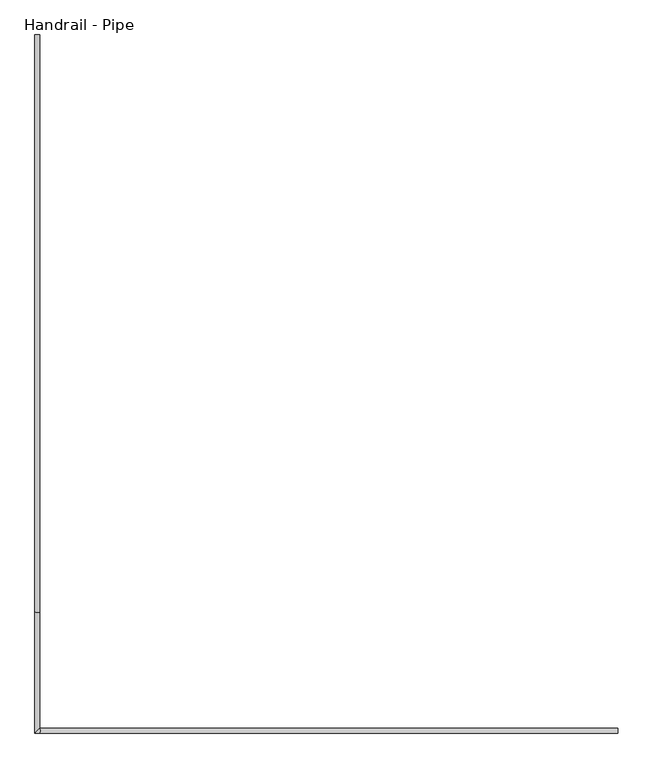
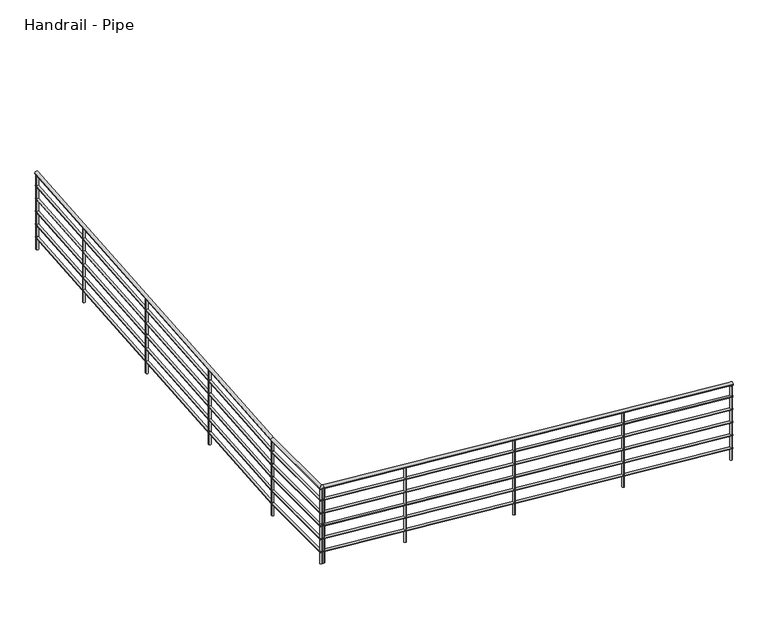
"""IFC4 building model written with IfcOpenShell, lengths in millimetres: railing geometry, Handrail - Pipe."""

from ifc_helpers import new_model, si_unit, point, frame, frame_2d, origin, place, context, project, spatial, circle_curve, ellipse_curve, trimmed, segment, composite_curve, outline, extrude, source, transform, mapped, element, save
from ifc_brep_helpers import plane_surface, cylinder_surface, advanced_brep


def handrail_pipe_b21a8dd5(model_context):
    return source(origin(), model_context, "Body", "SolidModel", [
        advanced_brep(
        [(17900.9421922, -12379.3010164, 133.2839686), (17900.9421922, -12417.4010164, 133.2839686), (13328.1498155, -12379.3010164, 514.35), (13328.1498155, -12417.4010164, 514.35), (13322.5921922, -12379.3010164, 514.35), (13284.4921922, -12417.4010164, 514.35), (13322.5921922, -11462.6964124, 514.35), (13284.4921922, -11462.6964124, 514.35), (13322.5921922, -6891.4887891, 895.2839686), (13284.4921922, -6891.4887891, 895.2839686)],
        [
            (0, 1, ellipse_curve(frame((17900.9421922, -12398.3510164, 133.2839686), z_axis=(1.0, 0.0, 0.0), x_axis=(0.0, 0.0, -1.0)), 19.1160314, 19.05)),
            (1, 0, ellipse_curve(frame((17900.9421922, -12398.3510164, 133.2839686), z_axis=(1.0, 0.0, 0.0), x_axis=(0.0, 0.0, -1.0)), 19.1160314, 19.05)),
            (0, 2),
            (2, 3, ellipse_curve(frame((13328.1498155, -12398.3510164, 514.35), z_axis=(0.9991360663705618, 0.0, -0.041558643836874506), x_axis=(-0.04155864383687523, 0.0, -0.9991360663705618)), 19.0664722, 19.05)),
            (3, 1),
            (3, 2, ellipse_curve(frame((13328.1498155, -12398.3510164, 514.35), z_axis=(0.9991360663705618, 0.0, -0.041558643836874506), x_axis=(-0.04155864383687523, 0.0, -0.9991360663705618)), 19.0664722, 19.05)),
            (2, 4),
            (4, 5, ellipse_curve(frame((13303.5421922, -12398.3510164, 514.35), z_axis=(0.7071067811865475, -0.7071067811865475, 0.0), x_axis=(0.7071067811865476, 0.7071067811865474, 0.0)), 26.9407684, 19.05)),
            (5, 3),
            (5, 4, ellipse_curve(frame((13303.5421922, -12398.3510164, 514.35), z_axis=(0.7071067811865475, -0.7071067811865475, 0.0), x_axis=(0.7071067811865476, 0.7071067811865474, 0.0)), 26.9407684, 19.05)),
            (4, 6),
            (6, 7, ellipse_curve(frame((13303.5421922, -11462.6964124, 514.35), z_axis=(0.0, -0.9991360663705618, -0.041558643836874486), x_axis=(0.0, -0.04155864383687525, 0.9991360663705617)), 19.0664722, 19.05)),
            (7, 5),
            (7, 6, ellipse_curve(frame((13303.5421922, -11462.6964124, 514.35), z_axis=(0.0, -0.9991360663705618, -0.041558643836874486), x_axis=(0.0, -0.04155864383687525, 0.9991360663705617)), 19.0664722, 19.05)),
            (8, 9, ellipse_curve(frame((13303.5421922, -6891.4887891, 895.2839686), z_axis=(0.0, 1.0, 0.0), x_axis=(0.0, 0.0, -1.0)), 19.1160314, 19.05)),
            (9, 8, ellipse_curve(frame((13303.5421922, -6891.4887891, 895.2839686), z_axis=(0.0, 1.0, 0.0), x_axis=(0.0, 0.0, -1.0)), 19.1160314, 19.05)),
            (6, 8),
            (9, 7),
        ],
        [
            plane_surface(frame((17900.9421922, -12398.3510164, 152.4), z_axis=(1.0, 0.0, 0.0), x_axis=(0.0, -1.0, 0.0))),
            cylinder_surface(frame((17899.3601758, -12398.3510164, 133.4158033), z_axis=(0.9965457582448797, 0.0, -0.08304547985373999), x_axis=(0.0, -1.0, 0.0)), 19.05),
            cylinder_surface(frame((13328.9421922, -12398.3510164, 514.35), z_axis=(1.0, 0.0, 0.0), x_axis=(0.0, -1.0, 0.0)), 19.05),
            cylinder_surface(frame((13303.5421922, -12398.3510164, 514.35), z_axis=(0.0, -1.0, 0.0), x_axis=(-1.0, 0.0, 0.0)), 19.05),
            plane_surface(frame((13303.5421922, -6891.4887891, 914.4), z_axis=(0.0, 1.0, 0.0), x_axis=(0.0, 0.0, 1.0))),
            cylinder_surface(frame((13303.5421922, -11461.9067727, 514.4158033), z_axis=(0.0, -0.9965457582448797, -0.08304547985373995), x_axis=(-1.0, 0.0, 0.0)), 19.05),
        ],
        [
            (0, [[1, 2]]),
            (1, [[-1, 3, 4, 5]]),
            (1, [[-2, -5, 6, -3]]),
            (2, [[-4, 7, 8, 9]]),
            (2, [[-6, -9, 10, -7]]),
            (3, [[-8, 11, 12, 13]]),
            (3, [[-10, -13, 14, -11]]),
            (4, [[15, 16]]),
            (5, [[-12, 17, -16, 18]]),
            (5, [[-14, -18, -15, -17]]),
        ],
    ),
        advanced_brep(
        [(17900.9421922, -12385.6510164, -12.7440209), (17900.9421922, -12411.0510164, -12.7440209), (13328.413941, -12385.6510164, 368.3), (13328.413941, -12411.0510164, 368.3), (13316.2421922, -12385.6510164, 368.3), (13290.8421922, -12411.0510164, 368.3), (13316.2421922, -11462.9605379, 368.3), (13290.8421922, -11462.9605379, 368.3), (13316.2421922, -6891.4887891, 749.2559791), (13290.8421922, -6891.4887891, 749.2559791)],
        [
            (0, 1, ellipse_curve(frame((17900.9421922, -12398.3510164, -12.7440209), z_axis=(1.0, 0.0, 0.0), x_axis=(0.0, 0.0, -1.0)), 12.7440209, 12.7)),
            (1, 0, ellipse_curve(frame((17900.9421922, -12398.3510164, -12.7440209), z_axis=(1.0, 0.0, 0.0), x_axis=(0.0, 0.0, -1.0)), 12.7440209, 12.7)),
            (0, 2),
            (2, 3, ellipse_curve(frame((13328.413941, -12398.3510164, 368.3), z_axis=(0.9991360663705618, 0.0, -0.041558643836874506), x_axis=(-0.04155864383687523, 0.0, -0.9991360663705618)), 12.7109814, 12.7)),
            (3, 1),
            (3, 2, ellipse_curve(frame((13328.413941, -12398.3510164, 368.3), z_axis=(0.9991360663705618, 0.0, -0.041558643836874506), x_axis=(-0.04155864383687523, 0.0, -0.9991360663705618)), 12.7109814, 12.7)),
            (2, 4),
            (4, 5, ellipse_curve(frame((13303.5421922, -12398.3510164, 368.3), z_axis=(0.7071067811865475, -0.7071067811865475, 0.0), x_axis=(0.7071067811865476, 0.7071067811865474, 0.0)), 17.9605122, 12.7)),
            (5, 3),
            (5, 4, ellipse_curve(frame((13303.5421922, -12398.3510164, 368.3), z_axis=(0.7071067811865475, -0.7071067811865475, 0.0), x_axis=(0.7071067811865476, 0.7071067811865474, 0.0)), 17.9605122, 12.7)),
            (4, 6),
            (6, 7, ellipse_curve(frame((13303.5421922, -11462.9605379, 368.3), z_axis=(0.0, -0.9991360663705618, -0.041558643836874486), x_axis=(0.0, -0.04155864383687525, 0.9991360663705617)), 12.7109814, 12.7)),
            (7, 5),
            (7, 6, ellipse_curve(frame((13303.5421922, -11462.9605379, 368.3), z_axis=(0.0, -0.9991360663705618, -0.041558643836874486), x_axis=(0.0, -0.04155864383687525, 0.9991360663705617)), 12.7109814, 12.7)),
            (8, 9, ellipse_curve(frame((13303.5421922, -6891.4887891, 749.2559791), z_axis=(0.0, 1.0, 0.0), x_axis=(0.0, 0.0, -1.0)), 12.7440209, 12.7)),
            (9, 8, ellipse_curve(frame((13303.5421922, -6891.4887891, 749.2559791), z_axis=(0.0, 1.0, 0.0), x_axis=(0.0, 0.0, -1.0)), 12.7440209, 12.7)),
            (6, 8),
            (9, 7),
        ],
        [
            plane_surface(frame((17900.9421922, -12398.3510164, 0.0), z_axis=(1.0, 0.0, 0.0), x_axis=(0.0, -1.0, 0.0))),
            cylinder_surface(frame((17899.8875146, -12398.3510164, -12.6561311), z_axis=(0.9965457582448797, 0.0, -0.08304547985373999), x_axis=(0.0, -1.0, 0.0)), 12.7),
            cylinder_surface(frame((13328.9421922, -12398.3510164, 368.3), z_axis=(1.0, 0.0, 0.0), x_axis=(0.0, -1.0, 0.0)), 12.7),
            cylinder_surface(frame((13303.5421922, -12398.3510164, 368.3), z_axis=(0.0, -1.0, 0.0), x_axis=(-1.0, 0.0, 0.0)), 12.7),
            plane_surface(frame((13303.5421922, -6891.4887891, 762.0), z_axis=(0.0, 1.0, 0.0), x_axis=(0.0, 0.0, 1.0))),
            cylinder_surface(frame((13303.5421922, -11462.4341115, 368.3438689), z_axis=(0.0, -0.9965457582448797, -0.08304547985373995), x_axis=(-1.0, 0.0, 0.0)), 12.7),
        ],
        [
            (0, [[1, 2]]),
            (1, [[-1, 3, 4, 5]]),
            (1, [[-2, -5, 6, -3]]),
            (2, [[-4, 7, 8, 9]]),
            (2, [[-6, -9, 10, -7]]),
            (3, [[-8, 11, 12, 13]]),
            (3, [[-10, -13, 14, -11]]),
            (4, [[15, 16]]),
            (5, [[-12, 17, -16, 18]]),
            (5, [[-14, -18, -15, -17]]),
        ],
    ),
        advanced_brep(
        [(17900.9421922, -12385.6510164, -165.1440209), (17900.9421922, -12411.0510164, -165.1440209), (13328.413941, -12385.6510164, 215.9), (13328.413941, -12411.0510164, 215.9), (13316.2421922, -12385.6510164, 215.9), (13290.8421922, -12411.0510164, 215.9), (13316.2421922, -11462.9605379, 215.9), (13290.8421922, -11462.9605379, 215.9), (13316.2421922, -6891.4887891, 596.8559791), (13290.8421922, -6891.4887891, 596.8559791)],
        [
            (0, 1, ellipse_curve(frame((17900.9421922, -12398.3510164, -165.1440209), z_axis=(1.0, 0.0, 0.0), x_axis=(0.0, 0.0, -1.0)), 12.7440209, 12.7)),
            (1, 0, ellipse_curve(frame((17900.9421922, -12398.3510164, -165.1440209), z_axis=(1.0, 0.0, 0.0), x_axis=(0.0, 0.0, -1.0)), 12.7440209, 12.7)),
            (0, 2),
            (2, 3, ellipse_curve(frame((13328.413941, -12398.3510164, 215.9), z_axis=(0.9991360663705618, 0.0, -0.041558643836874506), x_axis=(-0.04155864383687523, 0.0, -0.9991360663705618)), 12.7109814, 12.7)),
            (3, 1),
            (3, 2, ellipse_curve(frame((13328.413941, -12398.3510164, 215.9), z_axis=(0.9991360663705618, 0.0, -0.041558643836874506), x_axis=(-0.04155864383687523, 0.0, -0.9991360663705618)), 12.7109814, 12.7)),
            (2, 4),
            (4, 5, ellipse_curve(frame((13303.5421922, -12398.3510164, 215.9), z_axis=(0.7071067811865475, -0.7071067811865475, 0.0), x_axis=(0.7071067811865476, 0.7071067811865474, 0.0)), 17.9605122, 12.7)),
            (5, 3),
            (5, 4, ellipse_curve(frame((13303.5421922, -12398.3510164, 215.9), z_axis=(0.7071067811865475, -0.7071067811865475, 0.0), x_axis=(0.7071067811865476, 0.7071067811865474, 0.0)), 17.9605122, 12.7)),
            (4, 6),
            (6, 7, ellipse_curve(frame((13303.5421922, -11462.9605379, 215.9), z_axis=(0.0, -0.9991360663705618, -0.041558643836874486), x_axis=(0.0, -0.04155864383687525, 0.9991360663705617)), 12.7109814, 12.7)),
            (7, 5),
            (7, 6, ellipse_curve(frame((13303.5421922, -11462.9605379, 215.9), z_axis=(0.0, -0.9991360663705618, -0.041558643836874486), x_axis=(0.0, -0.04155864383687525, 0.9991360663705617)), 12.7109814, 12.7)),
            (8, 9, ellipse_curve(frame((13303.5421922, -6891.4887891, 596.8559791), z_axis=(0.0, 1.0, 0.0), x_axis=(0.0, 0.0, -1.0)), 12.7440209, 12.7)),
            (9, 8, ellipse_curve(frame((13303.5421922, -6891.4887891, 596.8559791), z_axis=(0.0, 1.0, 0.0), x_axis=(0.0, 0.0, -1.0)), 12.7440209, 12.7)),
            (6, 8),
            (9, 7),
        ],
        [
            plane_surface(frame((17900.9421922, -12398.3510164, -152.4), z_axis=(1.0, 0.0, 0.0), x_axis=(0.0, -1.0, 0.0))),
            cylinder_surface(frame((17899.8875146, -12398.3510164, -165.0561311), z_axis=(0.9965457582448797, 0.0, -0.08304547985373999), x_axis=(0.0, -1.0, 0.0)), 12.7),
            cylinder_surface(frame((13328.9421922, -12398.3510164, 215.9), z_axis=(1.0, 0.0, 0.0), x_axis=(0.0, -1.0, 0.0)), 12.7),
            cylinder_surface(frame((13303.5421922, -12398.3510164, 215.9), z_axis=(0.0, -1.0, 0.0), x_axis=(-1.0, 0.0, 0.0)), 12.7),
            plane_surface(frame((13303.5421922, -6891.4887891, 609.6), z_axis=(0.0, 1.0, 0.0), x_axis=(0.0, 0.0, 1.0))),
            cylinder_surface(frame((13303.5421922, -11462.4341115, 215.9438689), z_axis=(0.0, -0.9965457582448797, -0.08304547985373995), x_axis=(-1.0, 0.0, 0.0)), 12.7),
        ],
        [
            (0, [[1, 2]]),
            (1, [[-1, 3, 4, 5]]),
            (1, [[-2, -5, 6, -3]]),
            (2, [[-4, 7, 8, 9]]),
            (2, [[-6, -9, 10, -7]]),
            (3, [[-8, 11, 12, 13]]),
            (3, [[-10, -13, 14, -11]]),
            (4, [[15, 16]]),
            (5, [[-12, 17, -16, 18]]),
            (5, [[-14, -18, -15, -17]]),
        ],
    ),
        advanced_brep(
        [(17900.9421922, -12385.6510164, -317.5440209), (17900.9421922, -12411.0510164, -317.5440209), (13328.413941, -12385.6510164, 63.5), (13328.413941, -12411.0510164, 63.5), (13316.2421922, -12385.6510164, 63.5), (13290.8421922, -12411.0510164, 63.5), (13316.2421922, -11462.9605379, 63.5), (13290.8421922, -11462.9605379, 63.5), (13316.2421922, -6891.4887891, 444.4559791), (13290.8421922, -6891.4887891, 444.4559791)],
        [
            (0, 1, ellipse_curve(frame((17900.9421922, -12398.3510164, -317.5440209), z_axis=(1.0, 0.0, 0.0), x_axis=(0.0, 0.0, -1.0)), 12.7440209, 12.7)),
            (1, 0, ellipse_curve(frame((17900.9421922, -12398.3510164, -317.5440209), z_axis=(1.0, 0.0, 0.0), x_axis=(0.0, 0.0, -1.0)), 12.7440209, 12.7)),
            (0, 2),
            (2, 3, ellipse_curve(frame((13328.413941, -12398.3510164, 63.5), z_axis=(0.9991360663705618, 0.0, -0.041558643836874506), x_axis=(-0.04155864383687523, 0.0, -0.9991360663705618)), 12.7109814, 12.7)),
            (3, 1),
            (3, 2, ellipse_curve(frame((13328.413941, -12398.3510164, 63.5), z_axis=(0.9991360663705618, 0.0, -0.041558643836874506), x_axis=(-0.04155864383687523, 0.0, -0.9991360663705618)), 12.7109814, 12.7)),
            (2, 4),
            (4, 5, ellipse_curve(frame((13303.5421922, -12398.3510164, 63.5), z_axis=(0.7071067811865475, -0.7071067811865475, 0.0), x_axis=(0.7071067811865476, 0.7071067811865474, 0.0)), 17.9605122, 12.7)),
            (5, 3),
            (5, 4, ellipse_curve(frame((13303.5421922, -12398.3510164, 63.5), z_axis=(0.7071067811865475, -0.7071067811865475, 0.0), x_axis=(0.7071067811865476, 0.7071067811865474, 0.0)), 17.9605122, 12.7)),
            (4, 6),
            (6, 7, ellipse_curve(frame((13303.5421922, -11462.9605379, 63.5), z_axis=(0.0, -0.9991360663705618, -0.0415586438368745), x_axis=(0.0, -0.04155864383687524, 0.9991360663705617)), 12.7109814, 12.7)),
            (7, 5),
            (7, 6, ellipse_curve(frame((13303.5421922, -11462.9605379, 63.5), z_axis=(0.0, -0.9991360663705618, -0.0415586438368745), x_axis=(0.0, -0.04155864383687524, 0.9991360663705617)), 12.7109814, 12.7)),
            (8, 9, ellipse_curve(frame((13303.5421922, -6891.4887891, 444.4559791), z_axis=(0.0, 1.0, 0.0), x_axis=(0.0, 0.0, -0.9999999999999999)), 12.7440209, 12.7)),
            (9, 8, ellipse_curve(frame((13303.5421922, -6891.4887891, 444.4559791), z_axis=(0.0, 1.0, 0.0), x_axis=(0.0, 0.0, -0.9999999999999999)), 12.7440209, 12.7)),
            (6, 8),
            (9, 7),
        ],
        [
            plane_surface(frame((17900.9421922, -12398.3510164, -304.8), z_axis=(1.0, 0.0, 0.0), x_axis=(0.0, -1.0, 0.0))),
            cylinder_surface(frame((17899.8875146, -12398.3510164, -317.4561311), z_axis=(0.9965457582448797, 0.0, -0.08304547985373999), x_axis=(0.0, -1.0, 0.0)), 12.7),
            cylinder_surface(frame((13328.9421922, -12398.3510164, 63.5), z_axis=(1.0, 0.0, 0.0), x_axis=(0.0, -1.0, 0.0)), 12.7),
            cylinder_surface(frame((13303.5421922, -12398.3510164, 63.5), z_axis=(0.0, -1.0, 0.0), x_axis=(-1.0, 0.0, 0.0)), 12.7),
            plane_surface(frame((13303.5421922, -6891.4887891, 457.2), z_axis=(0.0, 1.0, 0.0), x_axis=(0.0, 0.0, 1.0))),
            cylinder_surface(frame((13303.5421922, -11462.4341115, 63.5438689), z_axis=(0.0, -0.9965457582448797, -0.08304547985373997), x_axis=(-1.0, 0.0, 0.0)), 12.7),
        ],
        [
            (0, [[1, 2]]),
            (1, [[-1, 3, 4, 5]]),
            (1, [[-2, -5, 6, -3]]),
            (2, [[-4, 7, 8, 9]]),
            (2, [[-6, -9, 10, -7]]),
            (3, [[-8, 11, 12, 13]]),
            (3, [[-10, -13, 14, -11]]),
            (4, [[15, 16]]),
            (5, [[-12, 17, -16, 18]]),
            (5, [[-14, -18, -15, -17]]),
        ],
    ),
        advanced_brep(
        [(17900.9421922, -12385.6510164, -469.9440209), (17900.9421922, -12411.0510164, -469.9440209), (13328.413941, -12385.6510164, -88.9), (13328.413941, -12411.0510164, -88.9), (13316.2421922, -12385.6510164, -88.9), (13290.8421922, -12411.0510164, -88.9), (13316.2421922, -11462.9605379, -88.9), (13290.8421922, -11462.9605379, -88.9), (13316.2421922, -6891.4887891, 292.0559791), (13290.8421922, -6891.4887891, 292.0559791)],
        [
            (0, 1, ellipse_curve(frame((17900.9421922, -12398.3510164, -469.9440209), z_axis=(1.0, 0.0, 0.0), x_axis=(0.0, 0.0, -1.0)), 12.7440209, 12.7)),
            (1, 0, ellipse_curve(frame((17900.9421922, -12398.3510164, -469.9440209), z_axis=(1.0, 0.0, 0.0), x_axis=(0.0, 0.0, -1.0)), 12.7440209, 12.7)),
            (0, 2),
            (2, 3, ellipse_curve(frame((13328.413941, -12398.3510164, -88.9), z_axis=(0.9991360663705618, 0.0, -0.041558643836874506), x_axis=(-0.04155864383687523, 0.0, -0.9991360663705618)), 12.7109814, 12.7)),
            (3, 1),
            (3, 2, ellipse_curve(frame((13328.413941, -12398.3510164, -88.9), z_axis=(0.9991360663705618, 0.0, -0.041558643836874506), x_axis=(-0.04155864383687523, 0.0, -0.9991360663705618)), 12.7109814, 12.7)),
            (2, 4),
            (4, 5, ellipse_curve(frame((13303.5421922, -12398.3510164, -88.9), z_axis=(0.7071067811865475, -0.7071067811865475, 0.0), x_axis=(0.7071067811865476, 0.7071067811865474, 0.0)), 17.9605122, 12.7)),
            (5, 3),
            (5, 4, ellipse_curve(frame((13303.5421922, -12398.3510164, -88.9), z_axis=(0.7071067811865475, -0.7071067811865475, 0.0), x_axis=(0.7071067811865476, 0.7071067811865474, 0.0)), 17.9605122, 12.7)),
            (4, 6),
            (6, 7, ellipse_curve(frame((13303.5421922, -11462.9605379, -88.9), z_axis=(0.0, -0.9991360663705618, -0.0415586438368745), x_axis=(0.0, -0.04155864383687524, 0.9991360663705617)), 12.7109814, 12.7)),
            (7, 5),
            (7, 6, ellipse_curve(frame((13303.5421922, -11462.9605379, -88.9), z_axis=(0.0, -0.9991360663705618, -0.0415586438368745), x_axis=(0.0, -0.04155864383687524, 0.9991360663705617)), 12.7109814, 12.7)),
            (8, 9, ellipse_curve(frame((13303.5421922, -6891.4887891, 292.0559791), z_axis=(0.0, 1.0, 0.0), x_axis=(0.0, 0.0, -0.9999999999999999)), 12.7440209, 12.7)),
            (9, 8, ellipse_curve(frame((13303.5421922, -6891.4887891, 292.0559791), z_axis=(0.0, 1.0, 0.0), x_axis=(0.0, 0.0, -0.9999999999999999)), 12.7440209, 12.7)),
            (6, 8),
            (9, 7),
        ],
        [
            plane_surface(frame((17900.9421922, -12398.3510164, -457.2), z_axis=(1.0, 0.0, 0.0), x_axis=(0.0, -1.0, 0.0))),
            cylinder_surface(frame((17899.8875146, -12398.3510164, -469.8561311), z_axis=(0.9965457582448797, 0.0, -0.08304547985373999), x_axis=(0.0, -1.0, 0.0)), 12.7),
            cylinder_surface(frame((13328.9421922, -12398.3510164, -88.9), z_axis=(1.0, 0.0, 0.0), x_axis=(0.0, -1.0, 0.0)), 12.7),
            cylinder_surface(frame((13303.5421922, -12398.3510164, -88.9), z_axis=(0.0, -1.0, 0.0), x_axis=(-1.0, 0.0, 0.0)), 12.7),
            plane_surface(frame((13303.5421922, -6891.4887891, 304.8), z_axis=(0.0, 1.0, 0.0), x_axis=(0.0, 0.0, 1.0))),
            cylinder_surface(frame((13303.5421922, -11462.4341115, -88.8561311), z_axis=(0.0, -0.9965457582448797, -0.08304547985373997), x_axis=(-1.0, 0.0, 0.0)), 12.7),
        ],
        [
            (0, [[1, 2]]),
            (1, [[-1, 3, 4, 5]]),
            (1, [[-2, -5, 6, -3]]),
            (2, [[-4, 7, 8, 9]]),
            (2, [[-6, -9, 10, -7]]),
            (3, [[-8, 11, 12, 13]]),
            (3, [[-10, -13, 14, -11]]),
            (4, [[15, 16]]),
            (5, [[-12, 17, -16, 18]]),
            (5, [[-14, -18, -15, -17]]),
        ],
    ),
        advanced_brep(
        [(17900.9421922, -12385.6510164, -622.3440209), (17900.9421922, -12411.0510164, -622.3440209), (13328.413941, -12385.6510164, -241.3), (13328.413941, -12411.0510164, -241.3), (13316.2421922, -12385.6510164, -241.3), (13290.8421922, -12411.0510164, -241.3), (13316.2421922, -11462.9605379, -241.3), (13290.8421922, -11462.9605379, -241.3), (13316.2421922, -6891.4887891, 139.6559791), (13290.8421922, -6891.4887891, 139.6559791)],
        [
            (0, 1, ellipse_curve(frame((17900.9421922, -12398.3510164, -622.3440209), z_axis=(1.0, 0.0, 0.0), x_axis=(0.0, 0.0, -1.0)), 12.7440209, 12.7)),
            (1, 0, ellipse_curve(frame((17900.9421922, -12398.3510164, -622.3440209), z_axis=(1.0, 0.0, 0.0), x_axis=(0.0, 0.0, -1.0)), 12.7440209, 12.7)),
            (0, 2),
            (2, 3, ellipse_curve(frame((13328.413941, -12398.3510164, -241.3), z_axis=(0.9991360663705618, 0.0, -0.041558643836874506), x_axis=(-0.04155864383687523, 0.0, -0.9991360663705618)), 12.7109814, 12.7)),
            (3, 1),
            (3, 2, ellipse_curve(frame((13328.413941, -12398.3510164, -241.3), z_axis=(0.9991360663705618, 0.0, -0.041558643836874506), x_axis=(-0.04155864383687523, 0.0, -0.9991360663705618)), 12.7109814, 12.7)),
            (2, 4),
            (4, 5, ellipse_curve(frame((13303.5421922, -12398.3510164, -241.3), z_axis=(0.7071067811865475, -0.7071067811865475, 0.0), x_axis=(0.7071067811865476, 0.7071067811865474, 0.0)), 17.9605122, 12.7)),
            (5, 3),
            (5, 4, ellipse_curve(frame((13303.5421922, -12398.3510164, -241.3), z_axis=(0.7071067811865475, -0.7071067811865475, 0.0), x_axis=(0.7071067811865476, 0.7071067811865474, 0.0)), 17.9605122, 12.7)),
            (4, 6),
            (6, 7, ellipse_curve(frame((13303.5421922, -11462.9605379, -241.3), z_axis=(0.0, -0.9991360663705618, -0.0415586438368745), x_axis=(0.0, -0.04155864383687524, 0.9991360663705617)), 12.7109814, 12.7)),
            (7, 5),
            (7, 6, ellipse_curve(frame((13303.5421922, -11462.9605379, -241.3), z_axis=(0.0, -0.9991360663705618, -0.0415586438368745), x_axis=(0.0, -0.04155864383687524, 0.9991360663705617)), 12.7109814, 12.7)),
            (8, 9, ellipse_curve(frame((13303.5421922, -6891.4887891, 139.6559791), z_axis=(0.0, 1.0, 0.0), x_axis=(0.0, 0.0, -0.9999999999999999)), 12.7440209, 12.7)),
            (9, 8, ellipse_curve(frame((13303.5421922, -6891.4887891, 139.6559791), z_axis=(0.0, 1.0, 0.0), x_axis=(0.0, 0.0, -0.9999999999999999)), 12.7440209, 12.7)),
            (6, 8),
            (9, 7),
        ],
        [
            plane_surface(frame((17900.9421922, -12398.3510164, -609.6), z_axis=(1.0, 0.0, 0.0), x_axis=(0.0, -1.0, 0.0))),
            cylinder_surface(frame((17899.8875146, -12398.3510164, -622.2561311), z_axis=(0.9965457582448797, 0.0, -0.08304547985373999), x_axis=(0.0, -1.0, 0.0)), 12.7),
            cylinder_surface(frame((13328.9421922, -12398.3510164, -241.3), z_axis=(1.0, 0.0, 0.0), x_axis=(0.0, -1.0, 0.0)), 12.7),
            cylinder_surface(frame((13303.5421922, -12398.3510164, -241.3), z_axis=(0.0, -1.0, 0.0), x_axis=(-1.0, 0.0, 0.0)), 12.7),
            plane_surface(frame((13303.5421922, -6891.4887891, 152.4), z_axis=(0.0, 1.0, 0.0), x_axis=(0.0, 0.0, 1.0))),
            cylinder_surface(frame((13303.5421922, -11462.4341115, -241.2561311), z_axis=(0.0, -0.9965457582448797, -0.08304547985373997), x_axis=(-1.0, 0.0, 0.0)), 12.7),
        ],
        [
            (0, [[1, 2]]),
            (1, [[-1, 3, 4, 5]]),
            (1, [[-2, -5, 6, -3]]),
            (2, [[-4, 7, 8, 9]]),
            (2, [[-6, -9, 10, -7]]),
            (3, [[-8, 11, 12, 13]]),
            (3, [[-10, -13, 14, -11]]),
            (4, [[15, 16]]),
            (5, [[-12, 17, -16, 18]]),
            (5, [[-14, -18, -15, -17]]),
        ],
    ),
        advanced_brep(
        [(13290.8421922, -7805.8887891, 799.9679372), (13316.2421922, -7805.8887891, 799.9679372), (13316.2421922, -7805.8887891, -76.2), (13290.8421922, -7805.8887891, -76.2)],
        [
            (0, 1, ellipse_curve(frame((13303.5421922, -7805.8887891, 799.9679372), z_axis=(0.0, 0.08304547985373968, -0.9965457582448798), x_axis=(0.0, 0.9965457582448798, 0.08304547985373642)), 12.7440209, 12.7)),
            (1, 2),
            (2, 3, ellipse_curve(frame((13303.5421922, -7805.8887891, -76.2), z_axis=(0.0, -0.08304547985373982, 0.9965457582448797), x_axis=(0.0, 0.9965457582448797, 0.08304547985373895)), 12.7440209, 12.7)),
            (3, 0),
            (3, 2, ellipse_curve(frame((13303.5421922, -7805.8887891, -76.2), z_axis=(0.0, -0.08304547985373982, 0.9965457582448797), x_axis=(0.0, 0.9965457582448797, 0.08304547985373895)), 12.7440209, 12.7)),
            (1, 0, ellipse_curve(frame((13303.5421922, -7805.8887891, 799.9679372), z_axis=(0.0, 0.08304547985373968, -0.9965457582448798), x_axis=(0.0, 0.9965457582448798, 0.08304547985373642)), 12.7440209, 12.7)),
        ],
        [
            cylinder_surface(frame((13303.5421922, -7805.8887891, -304.8), z_axis=(0.0, 0.0, 1.0), x_axis=(1.0, 0.0, 0.0)), 12.7),
            plane_surface(frame((13328.9421922, -7780.4887891, 802.0846039), z_axis=(0.0, -0.08304547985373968, 0.9965457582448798), x_axis=(-1.0, 0.0, 0.0))),
            plane_surface(frame((13328.9421922, -7831.2887891, -78.3166667), z_axis=(0.0, 0.08304547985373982, -0.9965457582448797), x_axis=(-1.0, 0.0, 0.0))),
        ],
        [
            (0, [[1, 2, 3, 4]]),
            (0, [[5, -2, 6, -4]]),
            (1, [[-6, -1]]),
            (2, [[-5, -3]]),
        ],
    ),
        advanced_brep(
        [(13290.8421922, -9025.0887891, 698.3679372), (13316.2421922, -9025.0887891, 698.3679372), (13316.2421922, -9025.0887891, -177.8), (13290.8421922, -9025.0887891, -177.8)],
        [
            (0, 1, ellipse_curve(frame((13303.5421922, -9025.0887891, 698.3679372), z_axis=(0.0, 0.08304547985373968, -0.9965457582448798), x_axis=(0.0, 0.9965457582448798, 0.08304547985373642)), 12.7440209, 12.7)),
            (1, 2),
            (2, 3, ellipse_curve(frame((13303.5421922, -9025.0887891, -177.8), z_axis=(0.0, -0.08304547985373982, 0.9965457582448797), x_axis=(0.0, 0.9965457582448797, 0.08304547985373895)), 12.7440209, 12.7)),
            (3, 0),
            (3, 2, ellipse_curve(frame((13303.5421922, -9025.0887891, -177.8), z_axis=(0.0, -0.08304547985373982, 0.9965457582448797), x_axis=(0.0, 0.9965457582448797, 0.08304547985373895)), 12.7440209, 12.7)),
            (1, 0, ellipse_curve(frame((13303.5421922, -9025.0887891, 698.3679372), z_axis=(0.0, 0.08304547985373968, -0.9965457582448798), x_axis=(0.0, 0.9965457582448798, 0.08304547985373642)), 12.7440209, 12.7)),
        ],
        [
            cylinder_surface(frame((13303.5421922, -9025.0887891, -406.4), z_axis=(0.0, 0.0, 1.0), x_axis=(1.0, 0.0, 0.0)), 12.7),
            plane_surface(frame((13328.9421922, -8999.6887891, 700.4846039), z_axis=(0.0, -0.08304547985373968, 0.9965457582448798), x_axis=(-1.0, 0.0, 0.0))),
            plane_surface(frame((13328.9421922, -9050.4887891, -179.9166667), z_axis=(0.0, 0.08304547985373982, -0.9965457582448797), x_axis=(-1.0, 0.0, 0.0))),
        ],
        [
            (0, [[1, 2, 3, 4]]),
            (0, [[5, -2, 6, -4]]),
            (1, [[-6, -1]]),
            (2, [[-5, -3]]),
        ],
    ),
        advanced_brep(
        [(13290.8421922, -10244.2887891, 596.7679372), (13316.2421922, -10244.2887891, 596.7679372), (13316.2421922, -10244.2887891, -279.4), (13290.8421922, -10244.2887891, -279.4)],
        [
            (0, 1, ellipse_curve(frame((13303.5421922, -10244.2887891, 596.7679372), z_axis=(0.0, 0.08304547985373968, -0.9965457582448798), x_axis=(0.0, 0.9965457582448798, 0.08304547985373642)), 12.7440209, 12.7)),
            (1, 2),
            (2, 3, ellipse_curve(frame((13303.5421922, -10244.2887891, -279.4), z_axis=(0.0, -0.08304547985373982, 0.9965457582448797), x_axis=(0.0, 0.9965457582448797, 0.08304547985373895)), 12.7440209, 12.7)),
            (3, 0),
            (3, 2, ellipse_curve(frame((13303.5421922, -10244.2887891, -279.4), z_axis=(0.0, -0.08304547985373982, 0.9965457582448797), x_axis=(0.0, 0.9965457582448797, 0.08304547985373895)), 12.7440209, 12.7)),
            (1, 0, ellipse_curve(frame((13303.5421922, -10244.2887891, 596.7679372), z_axis=(0.0, 0.08304547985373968, -0.9965457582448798), x_axis=(0.0, 0.9965457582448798, 0.08304547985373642)), 12.7440209, 12.7)),
        ],
        [
            cylinder_surface(frame((13303.5421922, -10244.2887891, -508.0), z_axis=(0.0, 0.0, 1.0), x_axis=(1.0, 0.0, 0.0)), 12.7),
            plane_surface(frame((13328.9421922, -10218.8887891, 598.8846039), z_axis=(0.0, -0.08304547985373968, 0.9965457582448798), x_axis=(-1.0, 0.0, 0.0))),
            plane_surface(frame((13328.9421922, -10269.6887891, -281.5166667), z_axis=(0.0, 0.08304547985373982, -0.9965457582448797), x_axis=(-1.0, 0.0, 0.0))),
        ],
        [
            (0, [[1, 2, 3, 4]]),
            (0, [[5, -2, 6, -4]]),
            (1, [[-6, -1]]),
            (2, [[-5, -3]]),
        ],
    ),
        advanced_brep(
        [(14243.3421922, -12411.0510164, 418.9679372), (14243.3421922, -12385.6510164, 418.9679372), (14243.3421922, -12385.6510164, -457.2), (14243.3421922, -12411.0510164, -457.2)],
        [
            (0, 1, ellipse_curve(frame((14243.3421922, -12398.3510164, 418.9679372), z_axis=(-0.08304547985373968, 0.0, -0.9965457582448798), x_axis=(-0.9965457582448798, 0.0, 0.08304547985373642)), 12.7440209, 12.7)),
            (1, 2),
            (2, 3, ellipse_curve(frame((14243.3421922, -12398.3510164, -457.2), z_axis=(0.08304547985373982, 0.0, 0.9965457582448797), x_axis=(-0.9965457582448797, 0.0, 0.08304547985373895)), 12.7440209, 12.7)),
            (3, 0),
            (3, 2, ellipse_curve(frame((14243.3421922, -12398.3510164, -457.2), z_axis=(0.08304547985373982, 0.0, 0.9965457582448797), x_axis=(-0.9965457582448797, 0.0, 0.08304547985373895)), 12.7440209, 12.7)),
            (1, 0, ellipse_curve(frame((14243.3421922, -12398.3510164, 418.9679372), z_axis=(-0.08304547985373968, 0.0, -0.9965457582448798), x_axis=(-0.9965457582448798, 0.0, 0.08304547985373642)), 12.7440209, 12.7)),
        ],
        [
            cylinder_surface(frame((14243.3421922, -12398.3510164, -685.8), z_axis=(0.0, 0.0, 1.0), x_axis=(0.0, 1.0, 0.0)), 12.7),
            plane_surface(frame((14217.9421922, -12372.9510164, 421.0846039), z_axis=(0.08304547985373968, 0.0, 0.9965457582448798), x_axis=(0.0, -1.0, 0.0))),
            plane_surface(frame((14268.7421922, -12372.9510164, -459.3166667), z_axis=(-0.08304547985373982, 0.0, -0.9965457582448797), x_axis=(0.0, -1.0, 0.0))),
        ],
        [
            (0, [[1, 2, 3, 4]]),
            (0, [[5, -2, 6, -4]]),
            (1, [[-6, -1]]),
            (2, [[-5, -3]]),
        ],
    ),
        advanced_brep(
        [(15462.5421922, -12411.0510164, 317.3679372), (15462.5421922, -12385.6510164, 317.3679372), (15462.5421922, -12385.6510164, -558.8), (15462.5421922, -12411.0510164, -558.8)],
        [
            (0, 1, ellipse_curve(frame((15462.5421922, -12398.3510164, 317.3679372), z_axis=(-0.08304547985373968, 0.0, -0.9965457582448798), x_axis=(-0.9965457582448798, 0.0, 0.08304547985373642)), 12.7440209, 12.7)),
            (1, 2),
            (2, 3, ellipse_curve(frame((15462.5421922, -12398.3510164, -558.8), z_axis=(0.08304547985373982, 0.0, 0.9965457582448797), x_axis=(-0.9965457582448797, 0.0, 0.08304547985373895)), 12.7440209, 12.7)),
            (3, 0),
            (3, 2, ellipse_curve(frame((15462.5421922, -12398.3510164, -558.8), z_axis=(0.08304547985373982, 0.0, 0.9965457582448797), x_axis=(-0.9965457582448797, 0.0, 0.08304547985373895)), 12.7440209, 12.7)),
            (1, 0, ellipse_curve(frame((15462.5421922, -12398.3510164, 317.3679372), z_axis=(-0.08304547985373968, 0.0, -0.9965457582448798), x_axis=(-0.9965457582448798, 0.0, 0.08304547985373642)), 12.7440209, 12.7)),
        ],
        [
            cylinder_surface(frame((15462.5421922, -12398.3510164, -787.4), z_axis=(0.0, 0.0, 1.0), x_axis=(0.0, 1.0, 0.0)), 12.7),
            plane_surface(frame((15437.1421922, -12372.9510164, 319.4846039), z_axis=(0.08304547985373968, 0.0, 0.9965457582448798), x_axis=(0.0, -1.0, 0.0))),
            plane_surface(frame((15487.9421922, -12372.9510164, -560.9166667), z_axis=(-0.08304547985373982, 0.0, -0.9965457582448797), x_axis=(0.0, -1.0, 0.0))),
        ],
        [
            (0, [[1, 2, 3, 4]]),
            (0, [[5, -2, 6, -4]]),
            (1, [[-6, -1]]),
            (2, [[-5, -3]]),
        ],
    ),
        advanced_brep(
        [(16681.7421922, -12411.0510164, 215.7679372), (16681.7421922, -12385.6510164, 215.7679372), (16681.7421922, -12385.6510164, -660.4), (16681.7421922, -12411.0510164, -660.4)],
        [
            (0, 1, ellipse_curve(frame((16681.7421922, -12398.3510164, 215.7679372), z_axis=(-0.08304547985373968, 0.0, -0.9965457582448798), x_axis=(-0.9965457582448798, 0.0, 0.08304547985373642)), 12.7440209, 12.7)),
            (1, 2),
            (2, 3, ellipse_curve(frame((16681.7421922, -12398.3510164, -660.4), z_axis=(0.08304547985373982, 0.0, 0.9965457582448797), x_axis=(-0.9965457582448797, 0.0, 0.08304547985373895)), 12.7440209, 12.7)),
            (3, 0),
            (3, 2, ellipse_curve(frame((16681.7421922, -12398.3510164, -660.4), z_axis=(0.08304547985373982, 0.0, 0.9965457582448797), x_axis=(-0.9965457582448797, 0.0, 0.08304547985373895)), 12.7440209, 12.7)),
            (1, 0, ellipse_curve(frame((16681.7421922, -12398.3510164, 215.7679372), z_axis=(-0.08304547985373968, 0.0, -0.9965457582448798), x_axis=(-0.9965457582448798, 0.0, 0.08304547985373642)), 12.7440209, 12.7)),
        ],
        [
            cylinder_surface(frame((16681.7421922, -12398.3510164, -889.0), z_axis=(0.0, 0.0, 1.0), x_axis=(0.0, 1.0, 0.0)), 12.7),
            plane_surface(frame((16656.3421922, -12372.9510164, 217.8846039), z_axis=(0.08304547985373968, 0.0, 0.9965457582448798), x_axis=(0.0, -1.0, 0.0))),
            plane_surface(frame((16707.1421922, -12372.9510164, -662.5166667), z_axis=(-0.08304547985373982, 0.0, -0.9965457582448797), x_axis=(0.0, -1.0, 0.0))),
        ],
        [
            (0, [[1, 2, 3, 4]]),
            (0, [[5, -2, 6, -4]]),
            (1, [[-6, -1]]),
            (2, [[-5, -3]]),
        ],
    ),
        extrude(outline(composite_curve([segment(trimmed(circle_curve(frame_2d((13303.5421922, -11463.4887891)), 12.7), [point((13316.2421922, -11463.4887891))], [point((13290.8421922, -11463.4887891))], False, "CARTESIAN"), True, "CONTINUOUS"), segment(trimmed(circle_curve(frame_2d((13303.5421922, -11463.4887891)), 12.7), [point((13290.8421922, -11463.4887891))], [point((13316.2421922, -11463.4887891))], False, "CARTESIAN"), True, "CONTINUOUS")], self_intersect=False)), frame((0.0, 0.0, -381.0), z_axis=(0.0, 0.0, 1.0), x_axis=(1.0, 0.0, 0.0)), (0.0, 0.0, 1.0), 876.3),
        extrude(outline(composite_curve([segment(trimmed(circle_curve(frame_2d((13303.5421922, -12398.3510164)), 12.7), [point((13303.5421922, -12385.6510164))], [point((13303.5421922, -12411.0510164))], False, "CARTESIAN"), True, "CONTINUOUS"), segment(trimmed(circle_curve(frame_2d((13303.5421922, -12398.3510164)), 12.7), [point((13303.5421922, -12411.0510164))], [point((13303.5421922, -12385.6510164))], False, "CARTESIAN"), True, "CONTINUOUS")], self_intersect=False)), frame((0.0, 0.0, -381.0), z_axis=(0.0, 0.0, 1.0), x_axis=(1.0, 0.0, 0.0)), (0.0, 0.0, 1.0), 876.3),
        advanced_brep(
        [(13328.9421922, -12411.0510164, 495.1679372), (13328.9421922, -12385.6510164, 495.1679372), (13328.9421922, -12385.6510164, -381.0), (13328.9421922, -12411.0510164, -381.0)],
        [
            (0, 1, ellipse_curve(frame((13328.9421922, -12398.3510164, 495.1679372), z_axis=(-0.08304547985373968, 0.0, -0.9965457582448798), x_axis=(-0.9965457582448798, 0.0, 0.08304547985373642)), 12.7440209, 12.7)),
            (1, 2),
            (2, 3, ellipse_curve(frame((13328.9421922, -12398.3510164, -381.0), z_axis=(0.08304547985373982, 0.0, 0.9965457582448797), x_axis=(-0.9965457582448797, 0.0, 0.08304547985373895)), 12.7440209, 12.7)),
            (3, 0),
            (3, 2, ellipse_curve(frame((13328.9421922, -12398.3510164, -381.0), z_axis=(0.08304547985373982, 0.0, 0.9965457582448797), x_axis=(-0.9965457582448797, 0.0, 0.08304547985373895)), 12.7440209, 12.7)),
            (1, 0, ellipse_curve(frame((13328.9421922, -12398.3510164, 495.1679372), z_axis=(-0.08304547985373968, 0.0, -0.9965457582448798), x_axis=(-0.9965457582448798, 0.0, 0.08304547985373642)), 12.7440209, 12.7)),
        ],
        [
            cylinder_surface(frame((13328.9421922, -12398.3510164, -609.6), z_axis=(0.0, 0.0, 1.0), x_axis=(0.0, 1.0, 0.0)), 12.7),
            plane_surface(frame((13303.5421922, -12372.9510164, 497.2846039), z_axis=(0.08304547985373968, 0.0, 0.9965457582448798), x_axis=(0.0, -1.0, 0.0))),
            plane_surface(frame((13354.3421922, -12372.9510164, -383.1166667), z_axis=(-0.08304547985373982, 0.0, -0.9965457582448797), x_axis=(0.0, -1.0, 0.0))),
        ],
        [
            (0, [[1, 2, 3, 4]]),
            (0, [[5, -2, 6, -4]]),
            (1, [[-6, -1]]),
            (2, [[-5, -3]]),
        ],
    ),
        advanced_brep(
        [(13290.8421922, -6904.1887891, 875.1096039), (13316.2421922, -6904.1887891, 875.1096039), (13316.2421922, -6904.1887891, -1.0583333), (13290.8421922, -6904.1887891, -1.0583333)],
        [
            (0, 1, ellipse_curve(frame((13303.5421922, -6904.1887891, 875.1096039), z_axis=(0.0, 0.08304547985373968, -0.9965457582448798), x_axis=(0.0, 0.9965457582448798, 0.08304547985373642)), 12.7440209, 12.7)),
            (1, 2),
            (2, 3, ellipse_curve(frame((13303.5421922, -6904.1887891, -1.0583333), z_axis=(0.0, -0.08304547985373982, 0.9965457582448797), x_axis=(0.0, 0.9965457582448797, 0.08304547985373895)), 12.7440209, 12.7)),
            (3, 0),
            (3, 2, ellipse_curve(frame((13303.5421922, -6904.1887891, -1.0583333), z_axis=(0.0, -0.08304547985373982, 0.9965457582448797), x_axis=(0.0, 0.9965457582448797, 0.08304547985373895)), 12.7440209, 12.7)),
            (1, 0, ellipse_curve(frame((13303.5421922, -6904.1887891, 875.1096039), z_axis=(0.0, 0.08304547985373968, -0.9965457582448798), x_axis=(0.0, 0.9965457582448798, 0.08304547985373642)), 12.7440209, 12.7)),
        ],
        [
            cylinder_surface(frame((13303.5421922, -6904.1887891, -229.6583333), z_axis=(0.0, 0.0, 1.0), x_axis=(1.0, 0.0, 0.0)), 12.7),
            plane_surface(frame((13328.9421922, -6878.7887891, 877.2262705), z_axis=(0.0, -0.08304547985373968, 0.9965457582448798), x_axis=(-1.0, 0.0, 0.0))),
            plane_surface(frame((13328.9421922, -6929.5887891, -3.175), z_axis=(0.0, 0.08304547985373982, -0.9965457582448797), x_axis=(-1.0, 0.0, 0.0))),
        ],
        [
            (0, [[1, 2, 3, 4]]),
            (0, [[5, -2, 6, -4]]),
            (1, [[-6, -1]]),
            (2, [[-5, -3]]),
        ],
    ),
        advanced_brep(
        [(17888.2421922, -12411.0510164, 115.2262705), (17888.2421922, -12385.6510164, 115.2262705), (17888.2421922, -12385.6510164, -760.9416667), (17888.2421922, -12411.0510164, -760.9416667)],
        [
            (0, 1, ellipse_curve(frame((17888.2421922, -12398.3510164, 115.2262705), z_axis=(-0.08304547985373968, 0.0, -0.9965457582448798), x_axis=(-0.9965457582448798, 0.0, 0.08304547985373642)), 12.7440209, 12.7)),
            (1, 2),
            (2, 3, ellipse_curve(frame((17888.2421922, -12398.3510164, -760.9416667), z_axis=(0.08304547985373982, 0.0, 0.9965457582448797), x_axis=(-0.9965457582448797, 0.0, 0.08304547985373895)), 12.7440209, 12.7)),
            (3, 0),
            (3, 2, ellipse_curve(frame((17888.2421922, -12398.3510164, -760.9416667), z_axis=(0.08304547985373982, 0.0, 0.9965457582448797), x_axis=(-0.9965457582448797, 0.0, 0.08304547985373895)), 12.7440209, 12.7)),
            (1, 0, ellipse_curve(frame((17888.2421922, -12398.3510164, 115.2262705), z_axis=(-0.08304547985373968, 0.0, -0.9965457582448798), x_axis=(-0.9965457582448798, 0.0, 0.08304547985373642)), 12.7440209, 12.7)),
        ],
        [
            cylinder_surface(frame((17888.2421922, -12398.3510164, -989.5416667), z_axis=(0.0, 0.0, 1.0), x_axis=(0.0, 1.0, 0.0)), 12.7),
            plane_surface(frame((17862.8421922, -12372.9510164, 117.3429372), z_axis=(0.08304547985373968, 0.0, 0.9965457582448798), x_axis=(0.0, -1.0, 0.0))),
            plane_surface(frame((17913.6421922, -12372.9510164, -763.0583333), z_axis=(-0.08304547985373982, 0.0, -0.9965457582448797), x_axis=(0.0, -1.0, 0.0))),
        ],
        [
            (0, [[1, 2, 3, 4]]),
            (0, [[5, -2, 6, -4]]),
            (1, [[-6, -1]]),
            (2, [[-5, -3]]),
        ],
    ),
    ])


if __name__ == "__main__":
    model = new_model("IFC4")
    model_context = context("Model", 3, world=origin())
    ifc_project = project(units=[si_unit("LENGTHUNIT", "METRE", prefix="MILLI")], contexts=[model_context])
    site = spatial("IfcSite", under=ifc_project)
    building = spatial("IfcBuilding", under=site)
    placement = place(None, origin())
    handrail_pipe_shape = handrail_pipe_b21a8dd5(model_context)
    element("IfcRailing", 1, ObjectType="Handrail - Pipe", at=placement, inside=building, context=model_context, shape_type="MappedRepresentation", body=[
        mapped(handrail_pipe_shape, transform((0.0, 0.0, 0.0), x_axis=(1.0, 0.0, 0.0), y_axis=(0.0, 1.0, 0.0), z_axis=(0.0, 0.0, 1.0))),
    ])
    save(model, "model.ifc")
